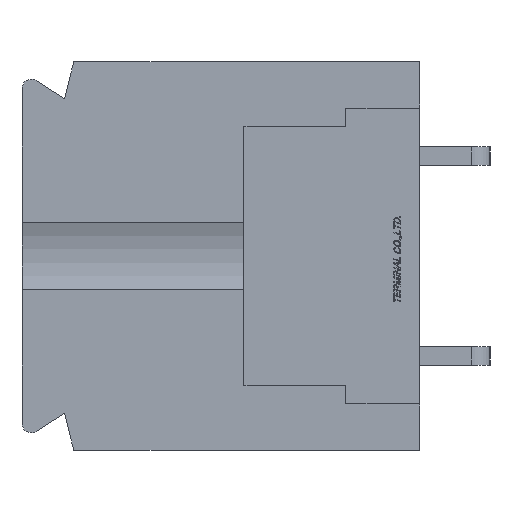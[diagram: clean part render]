
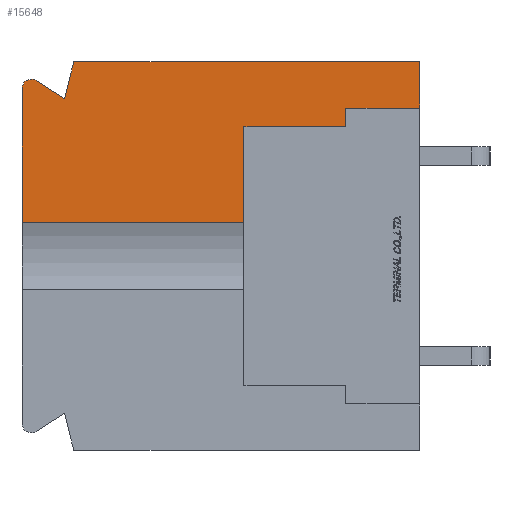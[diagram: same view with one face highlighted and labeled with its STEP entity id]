
A CAD part, left-side view. The second image highlights one B-rep face of the part: STEP entity #15648.
In plain terms, the highlighted planar face has unit normal (-1, 0, 0).
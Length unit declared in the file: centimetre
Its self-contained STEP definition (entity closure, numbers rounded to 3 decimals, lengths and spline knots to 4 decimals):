
#515=CIRCLE('',#26533,0.05);
#881=VECTOR('',#17432,1.);
#882=VECTOR('',#17433,1.);
#883=VECTOR('',#17434,1.);
#884=VECTOR('',#17435,1.);
#885=VECTOR('',#17436,1.);
#886=VECTOR('',#17437,1.);
#887=VECTOR('',#17438,1.);
#888=VECTOR('',#17439,1.);
#889=VECTOR('',#17442,1.);
#890=VECTOR('',#17443,1.);
#2768=LINE('',#20825,#881);
#2769=LINE('',#20828,#882);
#2770=LINE('',#20830,#883);
#2771=LINE('',#20832,#884);
#2772=LINE('',#20834,#885);
#2773=LINE('',#20836,#886);
#2774=LINE('',#20838,#887);
#2775=LINE('',#20840,#888);
#2776=LINE('',#20844,#889);
#2777=LINE('',#20846,#890);
#4668=VERTEX_POINT('',#20826);
#4669=VERTEX_POINT('',#20827);
#4670=VERTEX_POINT('',#20829);
#4671=VERTEX_POINT('',#20831);
#4672=VERTEX_POINT('',#20833);
#4673=VERTEX_POINT('',#20835);
#4674=VERTEX_POINT('',#20837);
#4675=VERTEX_POINT('',#20839);
#4676=VERTEX_POINT('',#20841);
#4677=VERTEX_POINT('',#20843);
#4678=VERTEX_POINT('',#20845);
#6405=EDGE_CURVE('',#4668,#4669,#2768,.T.);
#6406=EDGE_CURVE('',#4670,#4668,#2769,.T.);
#6407=EDGE_CURVE('',#4671,#4670,#2770,.T.);
#6408=EDGE_CURVE('',#4672,#4671,#2771,.T.);
#6409=EDGE_CURVE('',#4673,#4672,#2772,.T.);
#6410=EDGE_CURVE('',#4674,#4673,#2773,.T.);
#6411=EDGE_CURVE('',#4675,#4674,#2774,.T.);
#6412=EDGE_CURVE('',#4676,#4675,#2775,.T.);
#6413=EDGE_CURVE('',#4677,#4676,#515,.T.);
#6414=EDGE_CURVE('',#4678,#4677,#2776,.T.);
#6415=EDGE_CURVE('',#4678,#4669,#2777,.T.);
#8945=ORIENTED_EDGE('',*,*,#6405,.F.);
#8946=ORIENTED_EDGE('',*,*,#6406,.F.);
#8947=ORIENTED_EDGE('',*,*,#6407,.F.);
#8948=ORIENTED_EDGE('',*,*,#6408,.F.);
#8949=ORIENTED_EDGE('',*,*,#6409,.F.);
#8950=ORIENTED_EDGE('',*,*,#6410,.F.);
#8951=ORIENTED_EDGE('',*,*,#6411,.F.);
#8952=ORIENTED_EDGE('',*,*,#6412,.F.);
#8953=ORIENTED_EDGE('',*,*,#6413,.F.);
#8954=ORIENTED_EDGE('',*,*,#6414,.F.);
#8955=ORIENTED_EDGE('',*,*,#6415,.T.);
#13642=EDGE_LOOP('',(#8945,#8946,#8947,#8948,#8949,#8950,#8951,#8952,#8953,
#8954,#8955));
#14650=FACE_BOUND('',#13642,.T.);
#15648=ADVANCED_FACE('',(#14650),#16550,.F.);
#16550=PLANE('',#26532);
#17431=DIRECTION('',(1.,0.,0.));
#17432=DIRECTION('',(0.,0.,-1.));
#17433=DIRECTION('',(0.,1.,0.));
#17434=DIRECTION('',(0.,0.,-1.));
#17435=DIRECTION('',(0.,1.,0.));
#17436=DIRECTION('',(0.,0.,-1.));
#17437=DIRECTION('',(0.,-1.,0.));
#17438=DIRECTION('',(0.,-0.243,0.97));
#17439=DIRECTION('',(0.,-0.844,-0.536));
#17440=DIRECTION('',(1.,0.,0.));
#17441=DIRECTION('',(0.,0.,-0.05));
#17442=DIRECTION('',(0.,0.,1.));
#17443=DIRECTION('',(0.,-1.,0.));
#20824=CARTESIAN_POINT('',(-1.1,1.082,0.));
#20825=CARTESIAN_POINT('',(-1.1,0.95,-0.7));
#20826=CARTESIAN_POINT('',(-1.1,0.95,0.7));
#20827=CARTESIAN_POINT('',(-1.1,0.95,0.1809));
#20828=CARTESIAN_POINT('',(-1.1,0.95,0.7));
#20829=CARTESIAN_POINT('',(-1.1,0.4,0.7));
#20830=CARTESIAN_POINT('',(-1.1,0.4,0.7));
#20831=CARTESIAN_POINT('',(-1.1,0.4,0.8));
#20832=CARTESIAN_POINT('',(-1.1,0.4,0.8));
#20833=CARTESIAN_POINT('',(-1.1,0.,0.8));
#20834=CARTESIAN_POINT('',(-1.1,0.,1.05));
#20835=CARTESIAN_POINT('',(-1.1,0.,1.05));
#20836=CARTESIAN_POINT('',(-1.1,1.87,1.05));
#20837=CARTESIAN_POINT('',(-1.1,1.87,1.05));
#20838=CARTESIAN_POINT('',(-1.1,1.92,0.85));
#20839=CARTESIAN_POINT('',(-1.1,1.92,0.85));
#20840=CARTESIAN_POINT('',(-1.1,2.0742,0.9478));
#20841=CARTESIAN_POINT('',(-1.1,2.0742,0.9478));
#20842=CARTESIAN_POINT('',(-1.1,2.1,0.905));
#20843=CARTESIAN_POINT('',(-1.1,2.15,0.905));
#20844=CARTESIAN_POINT('',(-1.1,2.15,-0.905));
#20845=CARTESIAN_POINT('',(-1.1,2.15,0.1809));
#20846=CARTESIAN_POINT('',(-1.1,1.55,0.1809));
#26532=AXIS2_PLACEMENT_3D('',#20824,#17431,$);
#26533=AXIS2_PLACEMENT_3D('',#20842,#17440,#17441);
